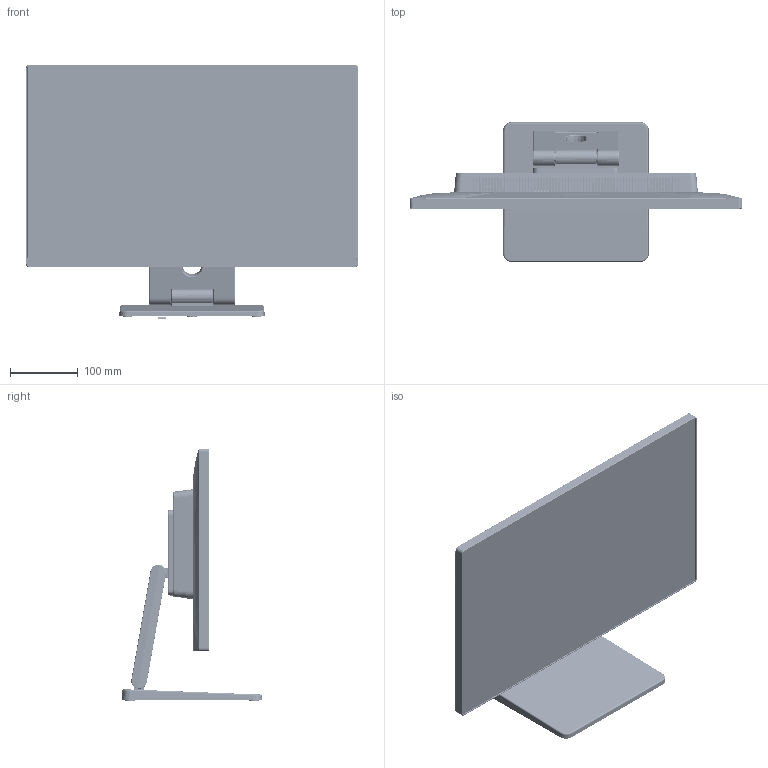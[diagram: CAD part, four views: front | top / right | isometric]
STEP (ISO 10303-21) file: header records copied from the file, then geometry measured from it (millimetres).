
FILE_DESCRIPTION((''),'2;1');
FILE_NAME('00_22M2320_DISPLAY_TOUCH_ASM_67_ASM','2025-08-12T',('zilong1.song'),(''),'CREO PARAMETRIC BY PTC INC, 2016380','CREO PARAMETRIC BY PTC INC, 2016380','');
FILE_SCHEMA(('CONFIG_CONTROL_DESIGN'));
Products named in the file (175): NEW_22M2320P_MBC_67-BAM2A2-4G0_; 01_PLASTIC_FRAME_5; 02_TP_4; 02_TP-COF_1; 02_TP-COF-2_1; 02_TP_ASM_2_ASM; SG215HB07-1_7; 01_OCTP_ASM_1_ASM; 01_PLATE_COVER_NEW_TOOLING_96; 62-JAM2A3-0UFH-BRACKET-DOWN; 03_22M2320P_OC_TAPE_3_1; 03_22M2320P_OC_TAPE_3_2; 03_22M2320P_OC_TAPE_3_3; 03_22M2320P_OC_TAPE_3_4; 03_22M2320P_OC_TAPE_3_ASM; COF-MYLAR; MALAY-TOP; 01_MODULE_ASM_15_ASM; JRY-W9LFHD-RB1-REV06-0416-12717; J410000000048_PHB-2XNA2_8_1__2; FPC_8MM_HOUSING-2-3_5_3; DUANZI_1_3; FPC_8MM_FFC-2-3_2_3; FPC_8MM-PUSH-2-3_4_3; FPC_8MM-PLATED_2-3_2_1_3; FPC_8MM-PLATED_2-3_2_2_3; FPC_8MM-PLATED_2-3_2_ASM_2_ASM; FPC_8MM-PCB_2-3_3_3; 8MM_ASS-03-2-3_ASM_5_ASM_4_ASM; J010000000089_FP10021W-H30-01_A_ASM; PHS-8AWD_1_3; PHS-8AWD_2_4; PHS-8AWD_ASM_3_ASM; J410000000039_PHS-8AWD_ASM_2_ASM; PHS-6AWD2_8_X2_5F15811A_X0__S_1; PHS-6AWD2_8_X2_5F15811A_X0__S_2; PHS-6AWD2_8_X2_5F15811A_X0__STP_ASM; J4311200055C3_PHS-5AWD_ASM_2_ASM; J4311210045C2_XHB-4AWD_3; 109150162__3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
Assembly tree (286 placements, depth 11):
  00_22M2320_DISPLAY_TOUCH_ASM_67_ASM
    0_CHASSIS_ASM_52_ASM
      01_MODULE_ASM_15_ASM
        NEW_22M2320P_MBC_67-BAM2A2-4G0_
        01_PLASTIC_FRAME_5
        01_OCTP_ASM_1_ASM
          02_TP_ASM_2_ASM
            02_TP_4
            02_TP-COF_1
            02_TP-COF-2_1
          SG215HB07-1_7
        01_PLATE_COVER_NEW_TOOLING_96
        62-JAM2A3-0UFH-BRACKET-DOWN
        03_22M2320P_OC_TAPE_3_ASM
          03_22M2320P_OC_TAPE_3_1
          03_22M2320P_OC_TAPE_3_2
          03_22M2320P_OC_TAPE_3_3
          03_22M2320P_OC_TAPE_3_4
        COF-MYLAR
        MALAY-TOP
      01_ELE_ASM_21_ASM
        0_MAIN_ASM_6_ASM
          0-SM2525H_SCH_R10_1_20220407__1_ASM
            JRY-W9LFHD-RB1-PCB-3D_ASM
              JRY-W9LFHD-RB1-REV06-0416-12781_ASM
                JRY-W9LFHD-RB1-REV06-0416-12717
                J410000000048_PHB-2XNA2_8_1__2
                J010000000089_FP10021W-H30-01_A_ASM
                  8MM_ASS-03-2-3_ASM_5_ASM_4_ASM
                    DUANZI_1_3  x30
                    FPC_8MM-PUSH-2-3_4_3  x2
                J410000000039_PHS-8AWD_ASM_2_ASM
                  PHS-8AWD_ASM_3_ASM
                J4311200055C3_PHS-5AWD_ASM_2_ASM
                  PHS-6AWD2_8_X2_5F15811A_X0__STP_ASM
                J4311210045C2_XHB-4AWD_3
                109150162__3
                J431120006524_PHS-6AWD_3
                J020000000051_161025342_3
                J432635005513_CKX-35-R21-1025_3  x2
                J420000000042_WLHD-345G_1_2_ASM
                  J420000000042_WLHD-345G_1_2_1
                  J420000000042_WLHD-345G_1_2_2
                  J420000000042_WLHD-345G_1_2_3
                  J420000000042_WLHD-345G_1_2_4
                  J420000000042_WLHD-345G_1_2_5
                  J420000000042_WLHD-345G_1_2_6
                  J420000000042_WLHD-345G_1_2_7
                  J420000000042_WLHD-345G_1_2_8
                  J420000000042_WLHD-345G_1_2_9
                  J420000000042_WLHD-345G_1_2_10
                J4306200035A0_DC-005S_ASM_4
          SH817A_PCB_R10_2_20220528_ASM_2_ASM
            SH817A_PCB_R10_2_20220528_ASM_3_ASM
              SH817A_PCB_R10_2_20220528_9_1_1
              USB-IN-30KUAN_2_1_1_1_1
              BREP_1-102883_8_1_1_1_1
          CABLE_DP_1_ASM
      POWER_ASM_14_ASM
        67-SCM2A0-0G0_1
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Bounding box: 489.17 x 206.4 x 374.59 mm (x, y, z)
Volume: 1591210.3 mm3; surface area: 2312025.7 mm2
Topology: 234 solids, 251 shells, 33264 faces, 94163 edges, 61581 vertices
Faces by surface type: plane 21490, cylinder 8061, bspline 1617, cone 663, torus 610, extrusion 472, sphere 263, revolution 88
Entity records: 1134535 total; most frequent: CARTESIAN_POINT 304366, ORIENTED_EDGE 156884, DIRECTION 138163, EDGE_CURVE 78499, VECTOR 56409, LINE 55937, VERTEX_POINT 51218, AXIS2_PLACEMENT_3D 40869
